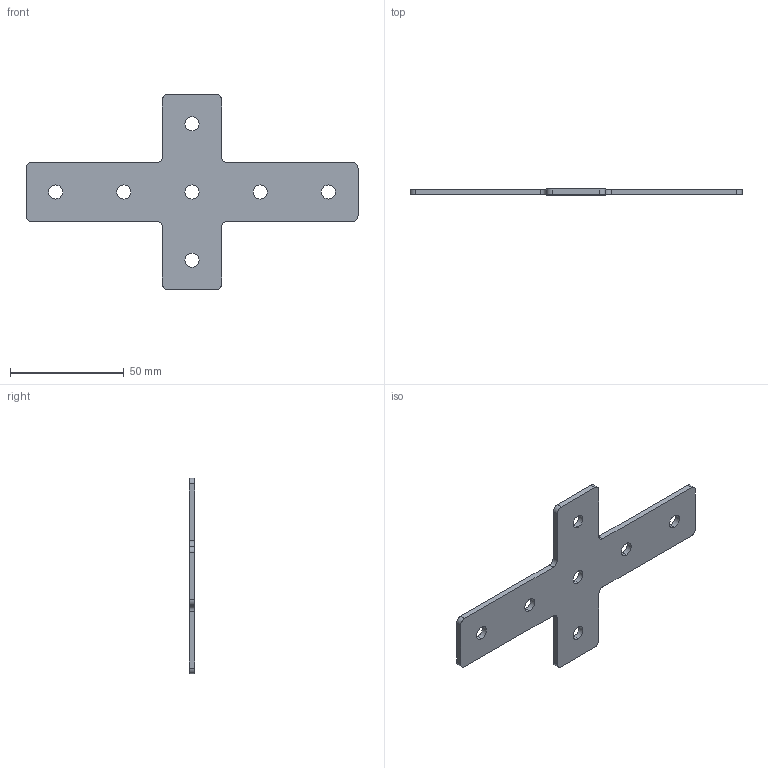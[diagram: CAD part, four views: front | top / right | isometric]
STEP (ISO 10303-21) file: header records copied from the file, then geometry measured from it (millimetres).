
FILE_DESCRIPTION (( 'STEP AP203' ), '1' );
FILE_NAME ('ﾕ-7-30.STEP', '2016-07-23T09:34:31', ( '' ), ( '' ), 'SwSTEP 2.0', 'SolidWorks 2014', '' );
FILE_SCHEMA (( 'CONFIG_CONTROL_DESIGN' ));
Length unit declared in the file: millimetre
Products named in the file (1): ﾕ-7-30
Bounding box: 146 x 2.5 x 86 mm (x, y, z)
Surface area: 11747.3 mm2 (no closed solid volume)
Topology: 0 solids, 1 shells, 40 faces, 114 edges, 76 vertices
Faces by surface type: cylinder 26, plane 14
Entity records: 1435 total; most frequent: DIRECTION 248, CARTESIAN_POINT 231, ORIENTED_EDGE 228, EDGE_CURVE 114, AXIS2_PLACEMENT_3D 93, VERTEX_POINT 76, VECTOR 62, LINE 62
